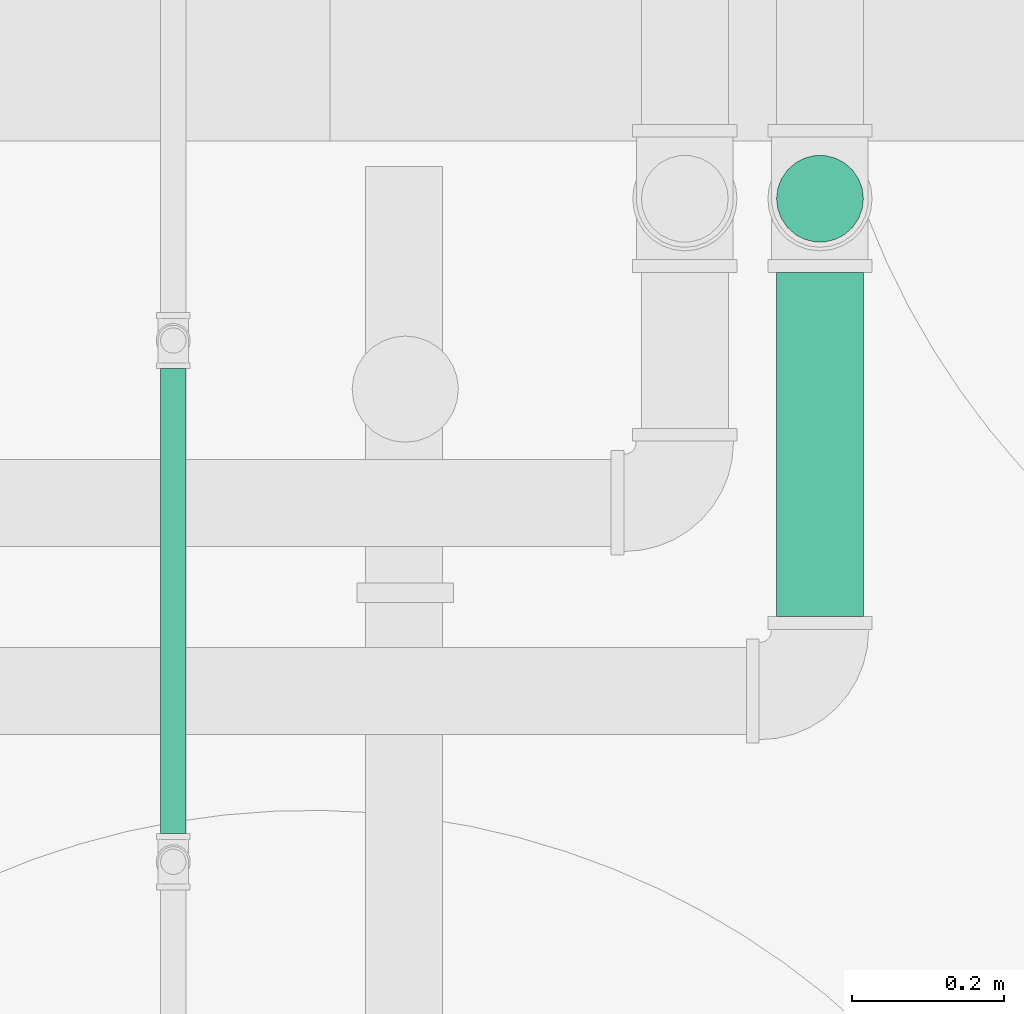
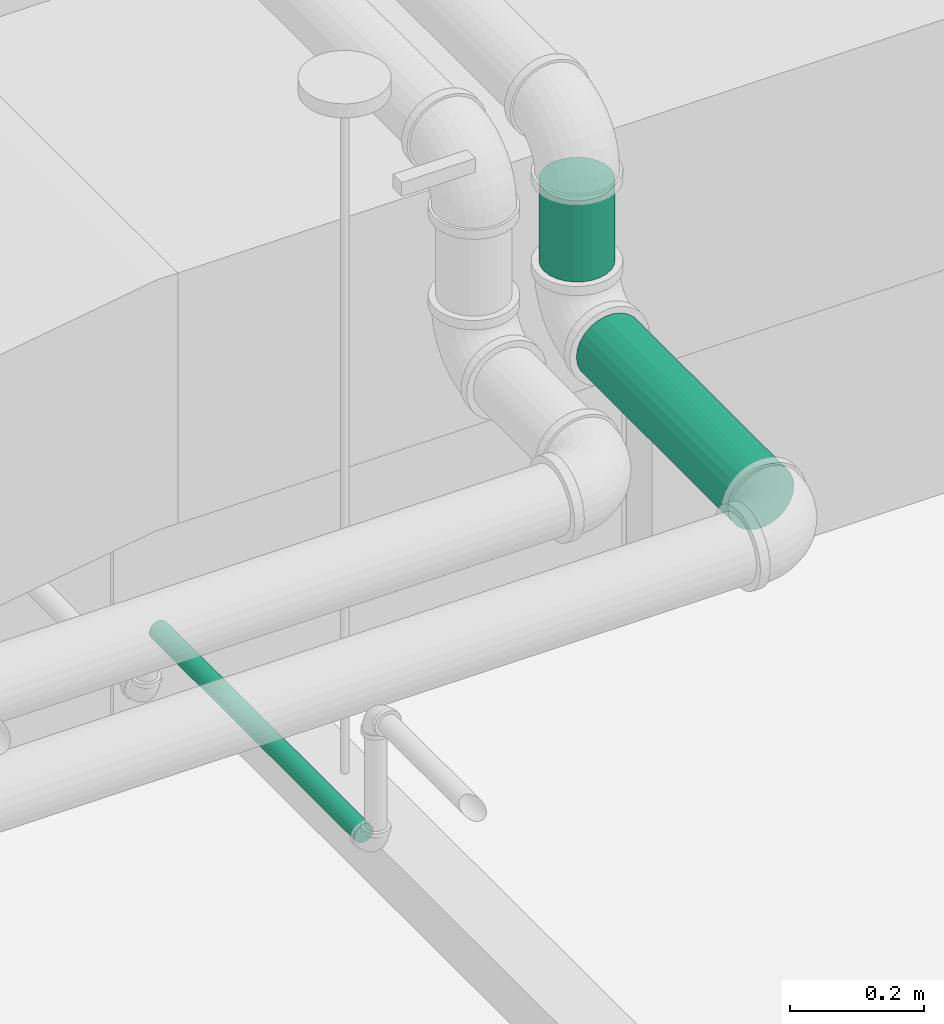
# One storey, part 63 of 108: 3 pipe segments.
"""IFC4 building model written with IfcOpenShell, lengths in feet."""

from ifc_helpers import new_model, entity, si_unit, converted_unit, derived_unit, direction, frame, frame_2d, origin, origin_2d_with_axis, place, context, subcontext, project, spatial, circle, extrude, type_object, element, save


model = new_model("IFC4")

# Units and contexts
model_context = context("Model", 3, precision=0.0001, world=origin(), true_north=direction((6.12303176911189e-17, 1.0)))
body_context = subcontext(model_context, "Body", "Model", "MODEL_VIEW")
ifc_project = project(units=[converted_unit("LENGTHUNIT", "FOOT", entity("IfcRatioMeasure", 0.3048), si_unit("LENGTHUNIT", "METRE"), dimensions=[1, 0, 0, 0, 0, 0, 0]), converted_unit("AREAUNIT", "SQUARE FOOT", entity("IfcRatioMeasure", 0.09290304), si_unit("AREAUNIT", "SQUARE_METRE"), dimensions=[2, 0, 0, 0, 0, 0, 0]), converted_unit("VOLUMEUNIT", "CUBIC FOOT", entity("IfcRatioMeasure", 0.028316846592), si_unit("VOLUMEUNIT", "CUBIC_METRE"), dimensions=[3, 0, 0, 0, 0, 0, 0]), converted_unit("PLANEANGLEUNIT", "DEGREE", entity("IfcRatioMeasure", 0.0174532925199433), si_unit("PLANEANGLEUNIT", "RADIAN"), dimensions=[0, 0, 0, 0, 0, 0, 0]), si_unit("MASSUNIT", "GRAM", prefix="KILO"), derived_unit("MASSDENSITYUNIT", [(si_unit("MASSUNIT", "GRAM", prefix="KILO"), 1), (si_unit("LENGTHUNIT", "METRE"), -3)]), si_unit("TIMEUNIT", "SECOND"), si_unit("FREQUENCYUNIT", "HERTZ"), si_unit("THERMODYNAMICTEMPERATUREUNIT", "DEGREE_CELSIUS"), derived_unit("THERMALTRANSMITTANCEUNIT", [(si_unit("MASSUNIT", "GRAM", prefix="KILO"), 1), (si_unit("THERMODYNAMICTEMPERATUREUNIT", "KELVIN"), -1), (si_unit("TIMEUNIT", "SECOND"), -3)]), derived_unit("VOLUMETRICFLOWRATEUNIT", [(si_unit("LENGTHUNIT", "METRE"), 3), (si_unit("TIMEUNIT", "SECOND"), -1)]), si_unit("ELECTRICCURRENTUNIT", "AMPERE"), si_unit("ELECTRICVOLTAGEUNIT", "VOLT"), si_unit("POWERUNIT", "WATT"), si_unit("FORCEUNIT", "NEWTON"), si_unit("ILLUMINANCEUNIT", "LUX"), si_unit("LUMINOUSFLUXUNIT", "LUMEN"), si_unit("LUMINOUSINTENSITYUNIT", "CANDELA"), derived_unit("USERDEFINED", [(si_unit("MASSUNIT", "GRAM", prefix="KILO"), -1), (si_unit("LENGTHUNIT", "METRE"), -2), (si_unit("TIMEUNIT", "SECOND"), 3), (si_unit("LUMINOUSFLUXUNIT", "LUMEN"), 1)]), derived_unit("LINEARVELOCITYUNIT", [(si_unit("LENGTHUNIT", "METRE"), 1), (si_unit("TIMEUNIT", "SECOND"), -1)]), si_unit("PRESSUREUNIT", "PASCAL"), derived_unit("USERDEFINED", [(si_unit("LENGTHUNIT", "METRE"), -2), (si_unit("MASSUNIT", "GRAM", prefix="KILO"), 1), (si_unit("TIMEUNIT", "SECOND"), -2)])], contexts=[model_context])

# Site, building, storey
site_placement = place(None, origin())
site = spatial("IfcSite", under=ifc_project, at=site_placement, Name="Default", CompositionType="ELEMENT")
building_placement = place(site_placement, origin())
building = spatial("IfcBuilding", under=site, at=building_placement, CompositionType="ELEMENT")
storey_placement = place(building_placement, frame((0.0, 0.0, 168.0)))
storey = spatial("IfcBuildingStorey", under=building, at=storey_placement, Name="Level 15", CompositionType="ELEMENT", Elevation=168.0)

# Pipe segments
pipe_segment_type_1 = type_object("IfcPipeSegmentType", Name="Pipe Types:Fire Prot Sched 10 Main", PredefinedType="NOTDEFINED")
pipe_segment_1_placement = place(storey_placement, frame((-33.5674577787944, 2.88596450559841, 9.01289116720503)))
element("IfcPipeSegment", 1, at=pipe_segment_1_placement, inside=storey, type_object=pipe_segment_type_1, Name="Pipe Types:Fire Prot Sched 10 Main", ObjectType="Pipe Types:Fire Prot Sched 10 Main", PredefinedType="NOTDEFINED", context=body_context, shape_type="SweptSolid", body=[
    extrude(circle(Radius=0.0547916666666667, at=frame_2d((0.0, 2.8421709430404e-14), x_axis=(1.0, 0.0))), frame((0.0600254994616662, 0.0, 0.0600254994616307), z_axis=(0.0, 1.0, 0.0), x_axis=(-1.0, 0.0, 0.0)), (0.0, 0.0, 1.0), 2.00757812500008),
])
pipe_segment_type_2 = type_object("IfcPipeSegmentType", Name="Pipe Types:Hydronic", PredefinedType="NOTDEFINED")
pipe_segment_2_placement = place(storey_placement, frame((-30.9087492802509, 3.82289023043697, 9.34893283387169)))
element("IfcPipeSegment", 2, at=pipe_segment_2_placement, inside=storey, type_object=pipe_segment_type_2, Name="Pipe Types:Hydronic", ObjectType="Pipe Types:Hydronic", PredefinedType="NOTDEFINED", context=body_context, shape_type="SweptSolid", body=[
    extrude(circle(Radius=0.1875, at=origin_2d_with_axis()), frame((0.192733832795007, 0.0, 0.192733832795), z_axis=(0.0, 1.0, 0.0), x_axis=(1.0, 0.0, 0.0)), (0.0, 0.0, 1.0), 1.48595052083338),
])
pipe_segment_3_placement = place(storey_placement, frame((-30.9087492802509, 5.43404962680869, 9.86277343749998)))
element("IfcPipeSegment", 3, at=pipe_segment_3_placement, inside=storey, type_object=pipe_segment_type_2, Name="Pipe Types:Hydronic", ObjectType="Pipe Types:Hydronic", PredefinedType="NOTDEFINED", context=body_context, shape_type="SweptSolid", body=[
    extrude(circle(Radius=0.1875, at=origin_2d_with_axis()), frame((0.192733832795, 0.192733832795, 0.0), z_axis=(0.0, 0.0, 1.0), x_axis=(-1.0, 0.0, 0.0)), (0.0, 0.0, 1.0), 0.485950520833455),
])

save(model, "model.ifc")
